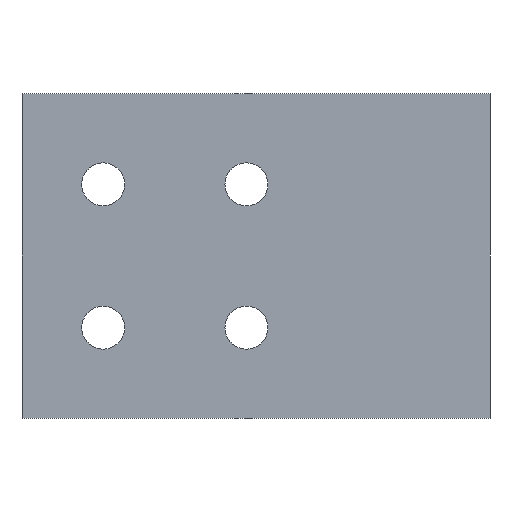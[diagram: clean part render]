
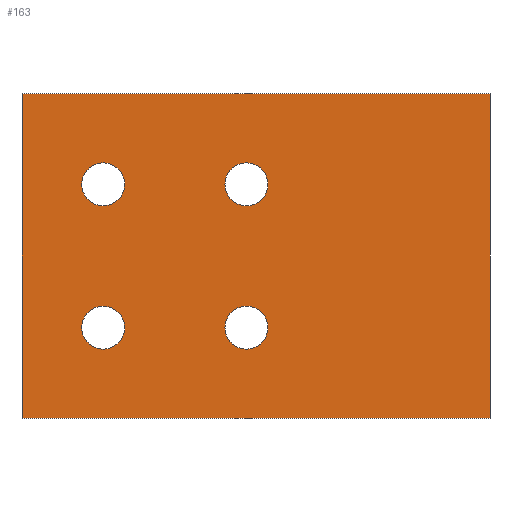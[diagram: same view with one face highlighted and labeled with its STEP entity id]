
A CAD part, front view. The second image highlights one B-rep face of the part: STEP entity #163.
In plain terms, the highlighted planar face has unit normal (0, -1, 0).
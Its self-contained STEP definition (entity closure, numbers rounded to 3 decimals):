
#99 = VERTEX_POINT( '', #265 );
#105 = EDGE_CURVE( '', #177, #217, #272, .T. );
#109 = VERTEX_POINT( '', #276 );
#113 = VERTEX_POINT( '', #280 );
#115 = EDGE_CURVE( '', #99, #219, #282, .T. );
#123 = VERTEX_POINT( '', #292 );
#125 = EDGE_CURVE( '', #123, #99, #294, .T. );
#127 = VERTEX_POINT( '', #296 );
#129 = EDGE_CURVE( '', #123, #145, #298, .T. );
#143 = EDGE_CURVE( '', #127, #109, #314, .T. );
#145 = VERTEX_POINT( '', #316 );
#153 = EDGE_CURVE( '', #113, #165, #325, .T. );
#155 = EDGE_CURVE( '', #145, #219, #327, .T. );
#163 = ADVANCED_FACE( '', ( #335, #336, #337, #338, #339 ), #340, .T. );
#165 = VERTEX_POINT( '', #342 );
#177 = VERTEX_POINT( '', #354 );
#179 = EDGE_CURVE( '', #195, #243, #356, .T. );
#181 = EDGE_CURVE( '', #109, #127, #358, .T. );
#195 = VERTEX_POINT( '', #379 );
#203 = EDGE_CURVE( '', #217, #177, #388, .T. );
#217 = VERTEX_POINT( '', #403 );
#219 = VERTEX_POINT( '', #405 );
#229 = EDGE_CURVE( '', #243, #195, #416, .T. );
#243 = VERTEX_POINT( '', #431 );
#245 = EDGE_CURVE( '', #165, #113, #433, .T. );
#265 = CARTESIAN_POINT( '', ( 24.5, 0., -17. ) );
#272 = CIRCLE( '', #453, 2.25 );
#276 = CARTESIAN_POINT( '', ( -3.25, 0., -7.5 ) );
#280 = CARTESIAN_POINT( '', ( 1.25, 0., 7.5 ) );
#282 = LINE( '', #466, #467 );
#292 = CARTESIAN_POINT( '', ( 24.5, 0., 17. ) );
#294 = LINE( '', #482, #483 );
#296 = CARTESIAN_POINT( '', ( 1.25, 0., -7.5 ) );
#298 = LINE( '', #488, #489 );
#314 = CIRCLE( '', #511, 2.25 );
#316 = CARTESIAN_POINT( '', ( -24.5, 0., 17. ) );
#325 = CIRCLE( '', #522, 2.25 );
#327 = LINE( '', #525, #526 );
#335 = FACE_BOUND( '', #537, .T. );
#336 = FACE_BOUND( '', #538, .T. );
#337 = FACE_BOUND( '', #539, .T. );
#338 = FACE_BOUND( '', #540, .T. );
#339 = FACE_OUTER_BOUND( '', #541, .T. );
#340 = PLANE( '', #542 );
#342 = CARTESIAN_POINT( '', ( -3.25, 0., 7.5 ) );
#354 = CARTESIAN_POINT( '', ( -13.75, 0., -7.5 ) );
#356 = CIRCLE( '', #561, 2.25 );
#358 = CIRCLE( '', #564, 2.25 );
#379 = CARTESIAN_POINT( '', ( -18.25, 0., 7.5 ) );
#388 = CIRCLE( '', #600, 2.25 );
#403 = CARTESIAN_POINT( '', ( -18.25, 0., -7.5 ) );
#405 = CARTESIAN_POINT( '', ( -24.5, 0., -17. ) );
#416 = CIRCLE( '', #640, 2.25 );
#431 = CARTESIAN_POINT( '', ( -13.75, 0., 7.5 ) );
#433 = CIRCLE( '', #664, 2.25 );
#453 = AXIS2_PLACEMENT_3D( '', #679, #680, #681 );
#466 = CARTESIAN_POINT( '', ( 24.5, 0., -17. ) );
#467 = VECTOR( '', #683, 1. );
#482 = CARTESIAN_POINT( '', ( 24.5, 0., 17. ) );
#483 = VECTOR( '', #701, 1. );
#488 = CARTESIAN_POINT( '', ( 24.5, 0., 17. ) );
#489 = VECTOR( '', #702, 1. );
#511 = AXIS2_PLACEMENT_3D( '', #724, #725, #726 );
#522 = AXIS2_PLACEMENT_3D( '', #736, #737, #738 );
#525 = CARTESIAN_POINT( '', ( -24.5, 0., 17. ) );
#526 = VECTOR( '', #739, 1. );
#537 = EDGE_LOOP( '', ( #745, #746 ) );
#538 = EDGE_LOOP( '', ( #747, #748 ) );
#539 = EDGE_LOOP( '', ( #749, #750 ) );
#540 = EDGE_LOOP( '', ( #751, #752 ) );
#541 = EDGE_LOOP( '', ( #753, #754, #755, #756 ) );
#542 = AXIS2_PLACEMENT_3D( '', #757, #758, #759 );
#561 = AXIS2_PLACEMENT_3D( '', #766, #767, #768 );
#564 = AXIS2_PLACEMENT_3D( '', #769, #770, #771 );
#600 = AXIS2_PLACEMENT_3D( '', #817, #818, #819 );
#640 = AXIS2_PLACEMENT_3D( '', #844, #845, #846 );
#664 = AXIS2_PLACEMENT_3D( '', #863, #864, #865 );
#679 = CARTESIAN_POINT( '', ( -16., 0., -7.5 ) );
#680 = DIRECTION( '', ( 0., 1., 0. ) );
#681 = DIRECTION( '', ( -1., 0., 0. ) );
#683 = DIRECTION( '', ( -1., 0., 0. ) );
#701 = DIRECTION( '', ( 0., 0., -1. ) );
#702 = DIRECTION( '', ( -1., 0., 0. ) );
#724 = CARTESIAN_POINT( '', ( -1., 0., -7.5 ) );
#725 = DIRECTION( '', ( 0., 1., 0. ) );
#726 = DIRECTION( '', ( -1., 0., 0. ) );
#736 = CARTESIAN_POINT( '', ( -1., 0., 7.5 ) );
#737 = DIRECTION( '', ( 0., 1., 0. ) );
#738 = DIRECTION( '', ( -1., 0., 0. ) );
#739 = DIRECTION( '', ( 0., 0., -1. ) );
#745 = ORIENTED_EDGE( '', *, *, #153, .T. );
#746 = ORIENTED_EDGE( '', *, *, #245, .T. );
#747 = ORIENTED_EDGE( '', *, *, #229, .T. );
#748 = ORIENTED_EDGE( '', *, *, #179, .T. );
#749 = ORIENTED_EDGE( '', *, *, #143, .T. );
#750 = ORIENTED_EDGE( '', *, *, #181, .T. );
#751 = ORIENTED_EDGE( '', *, *, #105, .T. );
#752 = ORIENTED_EDGE( '', *, *, #203, .T. );
#753 = ORIENTED_EDGE( '', *, *, #155, .T. );
#754 = ORIENTED_EDGE( '', *, *, #115, .F. );
#755 = ORIENTED_EDGE( '', *, *, #125, .F. );
#756 = ORIENTED_EDGE( '', *, *, #129, .T. );
#757 = CARTESIAN_POINT( '', ( 24.5, 0., 17. ) );
#758 = DIRECTION( '', ( 0., -1., 0. ) );
#759 = DIRECTION( '', ( 0., 0., 1. ) );
#766 = CARTESIAN_POINT( '', ( -16., 0., 7.5 ) );
#767 = DIRECTION( '', ( 0., 1., 0. ) );
#768 = DIRECTION( '', ( -1., 0., 0. ) );
#769 = CARTESIAN_POINT( '', ( -1., 0., -7.5 ) );
#770 = DIRECTION( '', ( 0., 1., 0. ) );
#771 = DIRECTION( '', ( -1., 0., 0. ) );
#817 = CARTESIAN_POINT( '', ( -16., 0., -7.5 ) );
#818 = DIRECTION( '', ( 0., 1., 0. ) );
#819 = DIRECTION( '', ( -1., 0., 0. ) );
#844 = CARTESIAN_POINT( '', ( -16., 0., 7.5 ) );
#845 = DIRECTION( '', ( 0., 1., 0. ) );
#846 = DIRECTION( '', ( -1., 0., 0. ) );
#863 = CARTESIAN_POINT( '', ( -1., 0., 7.5 ) );
#864 = DIRECTION( '', ( 0., 1., 0. ) );
#865 = DIRECTION( '', ( -1., 0., 0. ) );
